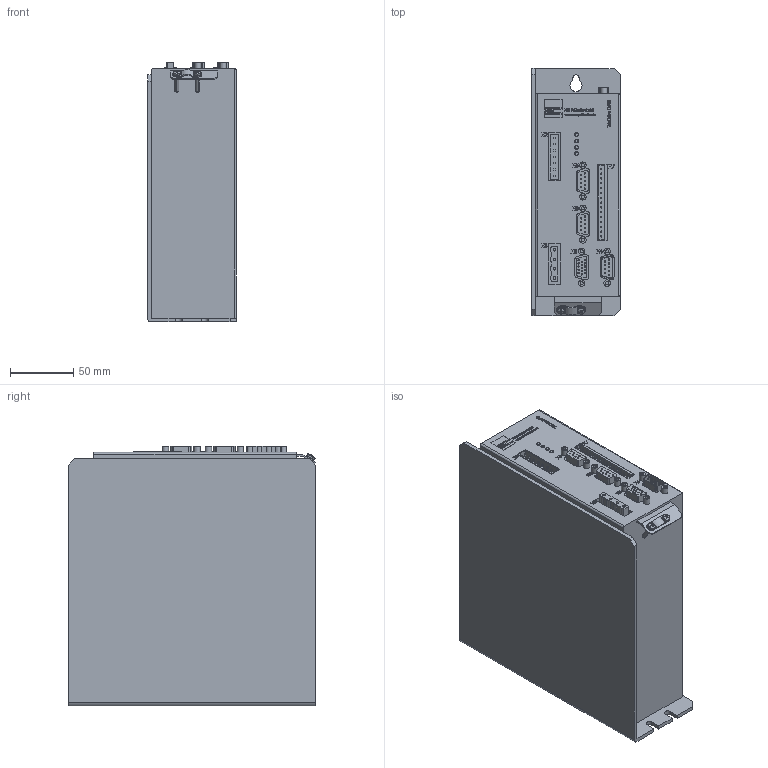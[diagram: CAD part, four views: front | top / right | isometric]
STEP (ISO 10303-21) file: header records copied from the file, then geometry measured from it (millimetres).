
FILE_DESCRIPTION(/* description */ ('Alibre Inc.'),/* implementation_level */ '2;1');
FILE_NAME(/* name */ 'export0',/* time_stamp */ '2011-02-11T08:30:00+01:00',/* author */ (''),/* organization */ ('ESR Pollmeier GmbH'),/* preprocessor_version */ 'ST-DEVELOPER v10',/* originating_system */ 'Alibre',/* authorisation */ '');
FILE_SCHEMA (('CONFIG_CONTROL_DESIGN'));
Length unit declared in the file: centimetre
Products named in the file (4): ID_1; ID_2; BÜLTE | rundkopfschrauben_M3_16; ID_3
Bounding box: 70 x 195 x 205 mm (x, y, z)
Surface area: 143893.6 mm2
Topology: 19 solids, 28 shells, 1754 faces, 4469 edges, 2970 vertices
Faces by surface type: plane 957, bspline 584, cylinder 201, torus 4, sphere 4, cone 4
Full cylindrical faces by diameter (mm): 1 x66, 2 x4, 2.5 x18, 3 x4, 3.1 x2, 5 x18
Entity records: 51489 total; most frequent: CARTESIAN_POINT 14183, ORIENTED_EDGE 8622, DIRECTION 4861, EDGE_CURVE 4295, VERTEX_POINT 2932, VECTOR 2725, LINE 2725, EDGE_LOOP 2099
